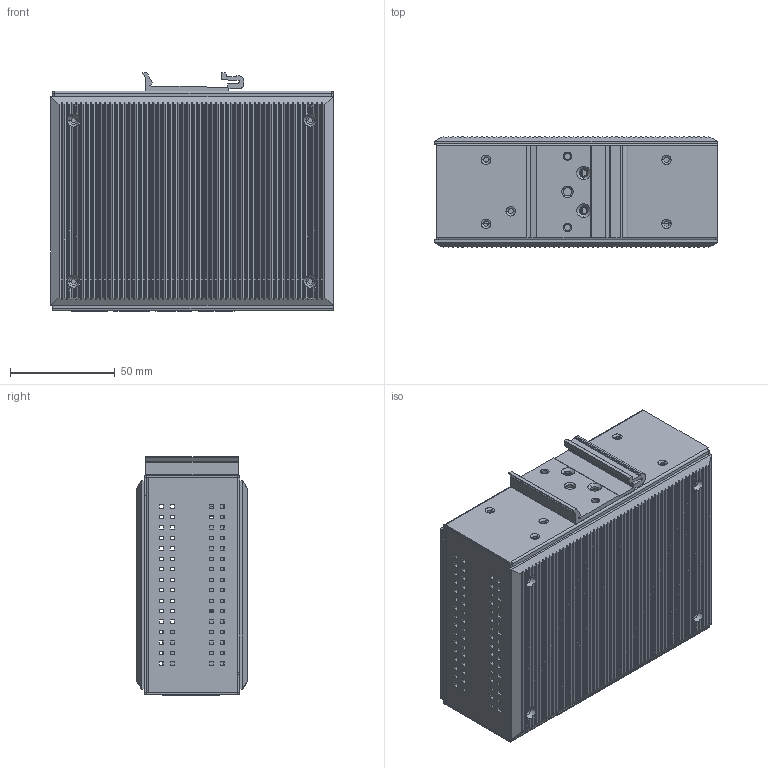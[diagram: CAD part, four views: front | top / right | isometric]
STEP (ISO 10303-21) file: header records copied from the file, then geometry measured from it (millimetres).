
FILE_DESCRIPTION((''),'2;1');
FILE_NAME('CU_UES-3880','2008-02-12T',('dcrowder'),(''),'PRO/ENGINEER BY PARAMETRIC TECHNOLOGY CORPORATION, 2006080','PRO/ENGINEER BY PARAMETRIC TECHNOLOGY CORPORATION, 2006080','');
FILE_SCHEMA(('CONFIG_CONTROL_DESIGN'));
Products named in the file (1): CU_UES-3880
Bounding box: 135.04 x 52.98 x 114 mm (x, y, z)
Volume: 167291.2 mm3; surface area: 207173.2 mm2
Topology: 3 solids, 10 shells, 2289 faces, 5988 edges, 3862 vertices
Faces by surface type: plane 1387, cylinder 796, cone 64, torus 42
Entity records: 70379 total; most frequent: CARTESIAN_POINT 13824, ORIENTED_EDGE 11922, DIRECTION 11076, EDGE_CURVE 5978, VECTOR 4138, LINE 4138, VERTEX_POINT 3862, AXIS2_PLACEMENT_3D 3469
